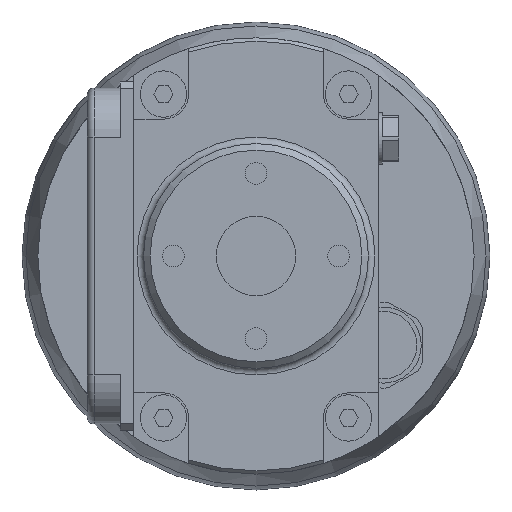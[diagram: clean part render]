
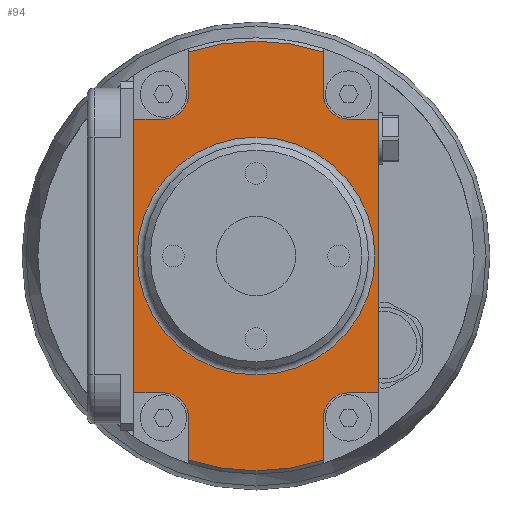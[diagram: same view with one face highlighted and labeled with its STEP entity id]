
A CAD part, left-side view. The second image highlights one B-rep face of the part: STEP entity #94.
In plain terms, the highlighted planar face has unit normal (-1, 0, 0).
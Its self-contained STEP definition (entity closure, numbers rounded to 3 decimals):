
#94=ADVANCED_FACE('',(#345,#346),#347,.F.);
#345=FACE_OUTER_BOUND('',#864,.T.);
#346=FACE_BOUND('',#865,.T.);
#347=PLANE('',#866);
#864=EDGE_LOOP('',(#1486,#1487,#1488,#1489,#1490,#1491,#1492,#1493,#1494,#1495,#1496,#1497,#1498,#1499,#1500,#1501));
#865=EDGE_LOOP('',(#1502));
#866=AXIS2_PLACEMENT_3D('',#1503,#1504,#1505);
#1486=ORIENTED_EDGE('',*,*,#2911,.F.);
#1487=ORIENTED_EDGE('',*,*,#2914,.F.);
#1488=ORIENTED_EDGE('',*,*,#2970,.T.);
#1489=ORIENTED_EDGE('',*,*,#2936,.F.);
#1490=ORIENTED_EDGE('',*,*,#2985,.F.);
#1491=ORIENTED_EDGE('',*,*,#2931,.F.);
#1492=ORIENTED_EDGE('',*,*,#2986,.T.);
#1493=ORIENTED_EDGE('',*,*,#2947,.F.);
#1494=ORIENTED_EDGE('',*,*,#2987,.F.);
#1495=ORIENTED_EDGE('',*,*,#2988,.F.);
#1496=ORIENTED_EDGE('',*,*,#2954,.T.);
#1497=ORIENTED_EDGE('',*,*,#2920,.F.);
#1498=ORIENTED_EDGE('',*,*,#2924,.F.);
#1499=ORIENTED_EDGE('',*,*,#2927,.F.);
#1500=ORIENTED_EDGE('',*,*,#2989,.T.);
#1501=ORIENTED_EDGE('',*,*,#2909,.F.);
#1502=ORIENTED_EDGE('',*,*,#2984,.F.);
#1503=CARTESIAN_POINT('',(-6.,0.0,32.5));
#1504=DIRECTION('',(1.0,0.0,0.0));
#1505=DIRECTION('',(0.0,0.0,-1.0));
#2909=EDGE_CURVE('',#3373,#3375,#3376,.F.);
#2911=EDGE_CURVE('',#3378,#3373,#3379,.F.);
#2914=EDGE_CURVE('',#3383,#3378,#3384,.F.);
#2920=EDGE_CURVE('',#3393,#3394,#3395,.F.);
#2924=EDGE_CURVE('',#3401,#3393,#3402,.F.);
#2927=EDGE_CURVE('',#3406,#3401,#3407,.F.);
#2931=EDGE_CURVE('',#3413,#3414,#3415,.F.);
#2936=EDGE_CURVE('',#3423,#3424,#3425,.F.);
#2947=EDGE_CURVE('',#3442,#3444,#3445,.F.);
#2954=EDGE_CURVE('',#3457,#3394,#3458,.T.);
#2970=EDGE_CURVE('',#3383,#3424,#3488,.T.);
#2984=EDGE_CURVE('',#3513,#3513,#3514,.T.);
#2985=EDGE_CURVE('',#3414,#3423,#3515,.F.);
#2986=EDGE_CURVE('',#3413,#3444,#3516,.T.);
#2987=EDGE_CURVE('',#3517,#3442,#3518,.F.);
#2988=EDGE_CURVE('',#3457,#3517,#3519,.F.);
#2989=EDGE_CURVE('',#3406,#3375,#3520,.T.);
#3373=VERTEX_POINT('',#4169);
#3375=VERTEX_POINT('',#4172);
#3376=LINE('',#4173,#4174);
#3378=VERTEX_POINT('',#4179);
#3379=CIRCLE('',#4180,3.8);
#3383=VERTEX_POINT('',#4185);
#3384=LINE('',#4186,#4187);
#3393=VERTEX_POINT('',#4199);
#3394=VERTEX_POINT('',#4200);
#3395=LINE('',#4201,#4202);
#3401=VERTEX_POINT('',#4211);
#3402=CIRCLE('',#4212,3.8);
#3406=VERTEX_POINT('',#4217);
#3407=LINE('',#4218,#4219);
#3413=VERTEX_POINT('',#4230);
#3414=VERTEX_POINT('',#4231);
#3415=LINE('',#4232,#4233);
#3423=VERTEX_POINT('',#4247);
#3424=VERTEX_POINT('',#4248);
#3425=LINE('',#4249,#4250);
#3442=VERTEX_POINT('',#4273);
#3444=VERTEX_POINT('',#4276);
#3445=LINE('',#4277,#4278);
#3457=VERTEX_POINT('',#4302);
#3458=LINE('',#4303,#4304);
#3488=LINE('',#4353,#4354);
#3513=VERTEX_POINT('',#4382);
#3514=CIRCLE('',#4383,18.);
#3515=CIRCLE('',#4384,3.8);
#3516=CIRCLE('',#4385,32.5);
#3517=VERTEX_POINT('',#4386);
#3518=CIRCLE('',#4387,3.8);
#3519=LINE('',#4388,#4389);
#3520=CIRCLE('',#4390,32.5);
#4169=CARTESIAN_POINT('',(-6.,10.2,24.5));
#4172=CARTESIAN_POINT('',(-6.,10.2,30.858));
#4173=CARTESIAN_POINT('',(-6.,10.2,0.0));
#4174=VECTOR('',#5385,1.0);
#4179=CARTESIAN_POINT('',(-6.,14.,20.7));
#4180=AXIS2_PLACEMENT_3D('',#5386,#5387,#5388);
#4185=CARTESIAN_POINT('',(-6.,18.5,20.7));
#4186=CARTESIAN_POINT('',(-6.,0.0,20.7));
#4187=VECTOR('',#5393,1.0);
#4199=CARTESIAN_POINT('',(-6.,-14.,20.7));
#4200=CARTESIAN_POINT('',(-6.,-18.5,20.7));
#4201=CARTESIAN_POINT('',(-6.,0.0,20.7));
#4202=VECTOR('',#5403,1.0);
#4211=CARTESIAN_POINT('',(-6.,-10.2,24.5));
#4212=AXIS2_PLACEMENT_3D('',#5407,#5408,#5409);
#4217=CARTESIAN_POINT('',(-6.,-10.2,30.858));
#4218=CARTESIAN_POINT('',(-6.,-10.2,0.0));
#4219=VECTOR('',#5414,1.0);
#4230=CARTESIAN_POINT('',(-6.,10.2,-30.858));
#4231=CARTESIAN_POINT('',(-6.,10.2,-24.5));
#4232=CARTESIAN_POINT('',(-6.,10.2,0.0));
#4233=VECTOR('',#5417,1.0);
#4247=CARTESIAN_POINT('',(-6.,14.,-20.7));
#4248=CARTESIAN_POINT('',(-6.,18.5,-20.7));
#4249=CARTESIAN_POINT('',(-6.,0.0,-20.7));
#4250=VECTOR('',#5421,1.0);
#4273=CARTESIAN_POINT('',(-6.,-10.2,-24.5));
#4276=CARTESIAN_POINT('',(-6.,-10.2,-30.858));
#4277=CARTESIAN_POINT('',(-6.,-10.2,0.0));
#4278=VECTOR('',#5438,1.0);
#4302=CARTESIAN_POINT('',(-6.,-18.5,-20.7));
#4303=CARTESIAN_POINT('',(-6.,-18.5,32.5));
#4304=VECTOR('',#5445,1.0);
#4353=CARTESIAN_POINT('',(-6.,18.5,32.5));
#4354=VECTOR('',#5462,1.0);
#4382=CARTESIAN_POINT('',(-6.,0.0,18.));
#4383=AXIS2_PLACEMENT_3D('',#5496,#5497,#5498);
#4384=AXIS2_PLACEMENT_3D('',#5499,#5500,#5501);
#4385=AXIS2_PLACEMENT_3D('',#5502,#5503,#5504);
#4386=CARTESIAN_POINT('',(-6.,-14.,-20.7));
#4387=AXIS2_PLACEMENT_3D('',#5505,#5506,#5507);
#4388=CARTESIAN_POINT('',(-6.,0.0,-20.7));
#4389=VECTOR('',#5508,1.0);
#4390=AXIS2_PLACEMENT_3D('',#5509,#5510,#5511);
#5385=DIRECTION('',(0.0,0.0,-1.0));
#5386=CARTESIAN_POINT('',(-6.,14.,24.5));
#5387=DIRECTION('',(1.0,0.0,0.0));
#5388=DIRECTION('',(0.0,0.0,-1.0));
#5393=DIRECTION('',(0.0,1.0,0.0));
#5403=DIRECTION('',(0.0,1.0,0.0));
#5407=CARTESIAN_POINT('',(-6.,-14.,24.5));
#5408=DIRECTION('',(1.0,0.0,0.0));
#5409=DIRECTION('',(0.0,0.0,-1.0));
#5414=DIRECTION('',(0.0,0.0,1.0));
#5417=DIRECTION('',(0.0,0.0,-1.0));
#5421=DIRECTION('',(0.0,-1.0,0.0));
#5438=DIRECTION('',(0.0,0.0,1.0));
#5445=DIRECTION('',(0.0,0.0,1.0));
#5462=DIRECTION('',(0.0,0.0,-1.0));
#5496=CARTESIAN_POINT('',(-6.,0.0,0.));
#5497=DIRECTION('',(-1.0,0.0,0.0));
#5498=DIRECTION('',(0.0,0.0,1.0));
#5499=CARTESIAN_POINT('',(-6.,14.,-24.5));
#5500=DIRECTION('',(1.0,0.0,0.0));
#5501=DIRECTION('',(0.0,0.0,-1.0));
#5502=CARTESIAN_POINT('',(-6.,0.0,0.));
#5503=DIRECTION('',(-1.0,0.0,0.0));
#5504=DIRECTION('',(0.0,0.0,1.0));
#5505=CARTESIAN_POINT('',(-6.,-14.,-24.5));
#5506=DIRECTION('',(1.0,0.0,0.0));
#5507=DIRECTION('',(0.0,0.0,-1.0));
#5508=DIRECTION('',(0.0,-1.0,0.0));
#5509=CARTESIAN_POINT('',(-6.,0.0,0.));
#5510=DIRECTION('',(-1.0,0.0,0.0));
#5511=DIRECTION('',(0.0,0.0,1.0));
